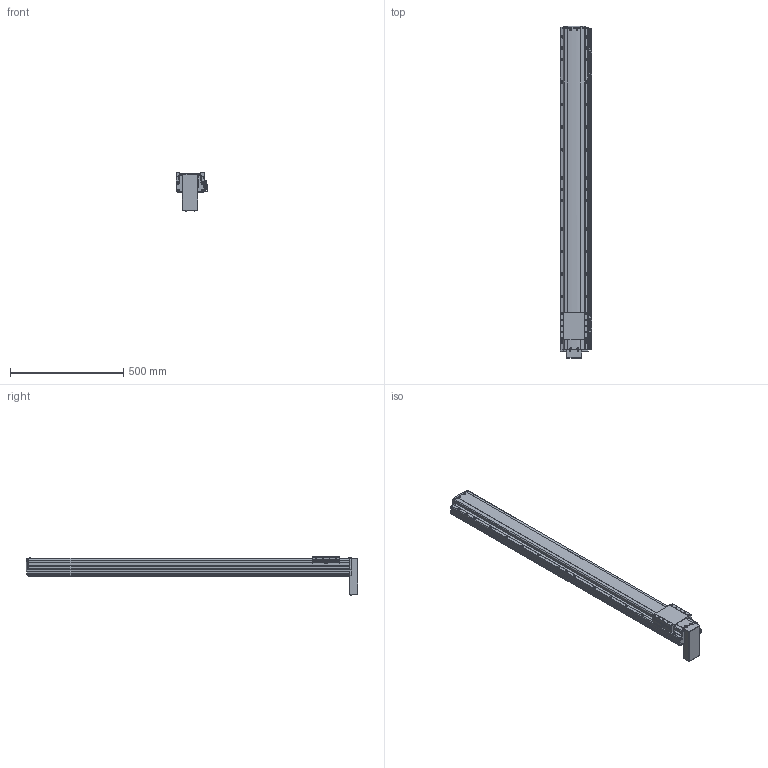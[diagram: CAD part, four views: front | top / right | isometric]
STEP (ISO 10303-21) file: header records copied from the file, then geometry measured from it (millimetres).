
FILE_DESCRIPTION(('STEP AP214'),'1');
FILE_NAME('Z:/Web/3D/PSA125/STP/PSA125-1200 (3D)/PSA125ㅁㅁ-1200PB+3SR.stp','2014-06-23T06:03:51',(' '),(' '),'Spatial InterOp 3D',' ',' ');
FILE_SCHEMA(('automotive_design'));
Length unit declared in the file: millimetre
Products named in the file (47): 스크루 : Round - M4.0 x 10.0; RRCV-PA120; SLIDE; BASE; FRCV-PA120-1(기준 뿔 제거); RR1500; 스크루 : Round - M4.0 x 6.0; 너트 : Square - M10.0 x 220.7419; 1; 2; 파트105; 스크루 : Round - M3.0 x 6.0; EE-SX674; SBK-SX674-352; M3.0 x 6.0; SRL-16x17-380L; SGD-PA95; 스크루 : Round - M3.0 x 8.0
Bounding box: 141 x 1468.6 x 169.06 mm (x, y, z)
Volume: 12474686.4 mm3; surface area: 1118859.5 mm2
Topology: 47 solids, 47 shells, 2739 faces, 7267 edges, 4644 vertices
Faces by surface type: plane 1505, cylinder 800, cone 298, sphere 72, torus 33, bspline 31
Entity records: 109094 total; most frequent: CARTESIAN_POINT 17532, DIRECTION 14652, ORIENTED_EDGE 14210, EDGE_CURVE 7105, AXIS2_PLACEMENT_3D 4996, LINE 4660, VECTOR 4660, VERTEX_POINT 4644
